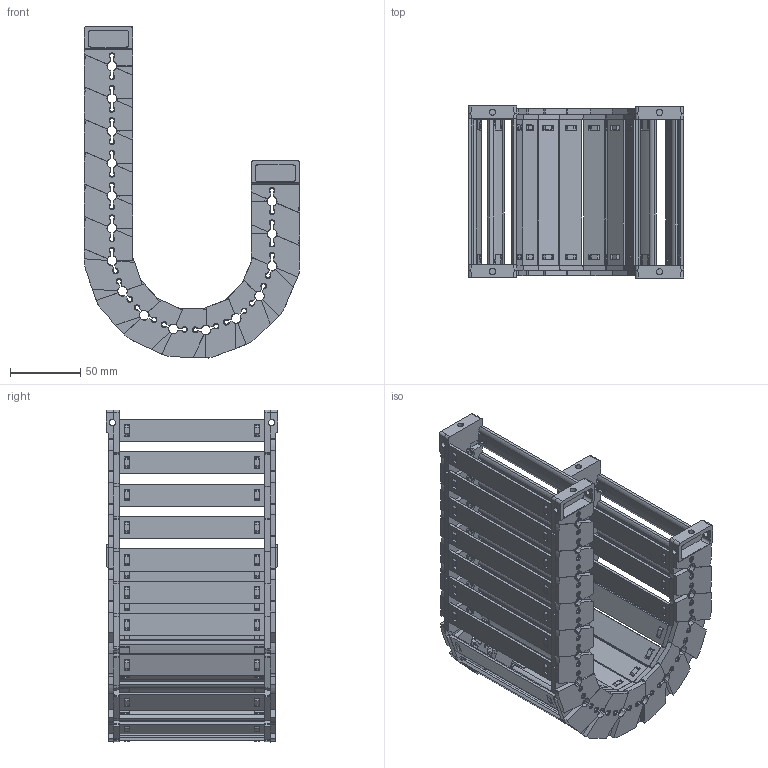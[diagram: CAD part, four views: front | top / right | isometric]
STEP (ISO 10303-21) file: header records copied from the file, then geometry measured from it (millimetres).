
FILE_DESCRIPTION((''),'2;1');
FILE_NAME('JY-28X103-R55_ASM','2026-03-26T08:02:59',('admin'),(''),'CREO PARAMETRIC BY PTC INC, 2021023','CREO PARAMETRIC BY PTC INC, 2021023','');
FILE_SCHEMA(('CONFIG_CONTROL_DESIGN'));
Length unit declared in the file: millimetre
Products named in the file (11): 28XL-L; 25-35XL-YP; 28XL-R; ASM0001_ASM; 28-LTT-A-L; 28-LTT-A-R; 28XL-LTT-A_ASM; 28-LTT-B-L; 28-LTT-B-R; 28XL-LTT-B_ASM; JY-28X103-R55_ASM
Assembly tree (29 placements, depth 3):
  JY-28X103-R55_ASM
    ASM0001_ASM  x15
      28XL-L
      25-35XL-YP
      28XL-R
    28XL-LTT-A_ASM
      28-LTT-A-L
      25-35XL-YP  x2
      28-LTT-A-R
    28XL-LTT-B_ASM
      28-LTT-B-L
      25-35XL-YP  x2
      28-LTT-B-R
Bounding box: 153.11 x 122 x 235.62 mm (x, y, z)
Volume: 352098.4 mm3; surface area: 254322.8 mm2
Topology: 68 solids, 68 shells, 5486 faces, 16300 edges, 10882 vertices
Faces by surface type: plane 3597, cone 973, cylinder 796, bspline 120
Entity records: 29071 total; most frequent: CARTESIAN_POINT 9487, ORIENTED_EDGE 4352, DIRECTION 3649, EDGE_CURVE 2176, VERTEX_POINT 1454, VECTOR 1365, LINE 1365, AXIS2_PLACEMENT_3D 1142
